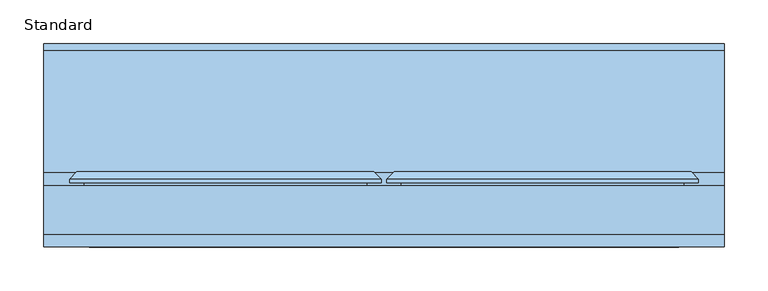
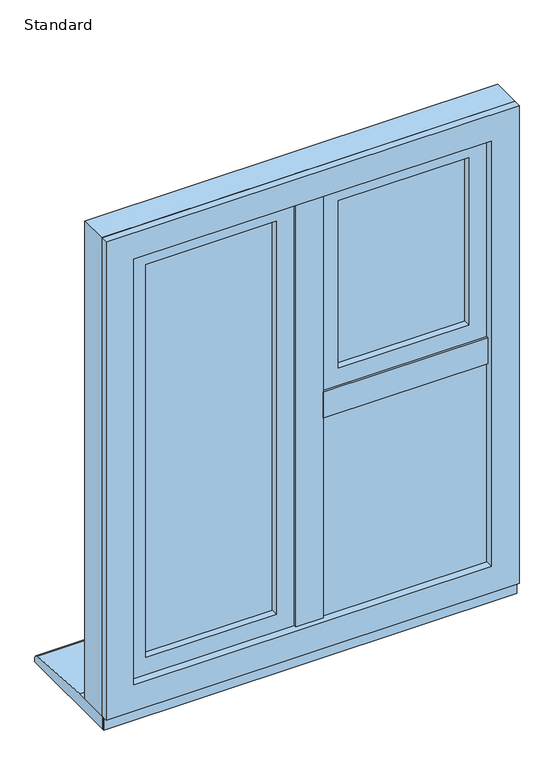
"""IFC4 building model written with IfcOpenShell, lengths in millimetres: window geometry, SMARTS_Alitherm600 : Standard."""

from ifc_helpers import new_model, si_unit, point, frame, frame_2d, origin, place, context, project, spatial, polyline, circle_curve, trimmed, segment, composite_curve, outline, extrude, faceted_brep, source, transform, mapped, element, save


def standard_4289d727(model_context):
    return source(origin(), model_context, "Body", "SolidModel", [
        extrude(outline(polyline([(-9.4, 102.8298432), (9.4, 102.8298432), (9.4, 47.2458572), (-9.4, 47.2458572), (-9.4, 102.8298432)])), frame((0.0, 0.0, 670.8979117), z_axis=(0.0, 0.0, 1.0), x_axis=(1.0, 0.0, 0.0)), (0.0, 0.0, 1.0), 883.2041766),
        extrude(outline(polyline([(-25.9020883, 47.2458572), (25.9020883, 47.2458572), (25.9020883, 43.2798432), (-25.9020883, 43.2798432), (-25.9020883, 47.2458572)])), frame((0.0, 0.0, 687.4), z_axis=(0.0, 0.0, 1.0), x_axis=(1.0, 0.0, 0.0)), (0.0, 0.0, 1.0), 850.2),
        extrude(outline(polyline([(354.1020883, 102.8298432), (354.1020883, 47.2458572), (9.4979117, 47.2458572), (9.4979117, 102.8298432), (354.1020883, 102.8298432)])), frame((0.0, 0.0, 1103.1), z_axis=(0.0, 0.0, 1.0), x_axis=(1.0, 0.0, 0.0)), (0.0, 0.0, 1.0), 18.8),
        extrude(outline(polyline([(337.6, 47.2458572), (337.6, 43.2798432), (26.0, 43.2798432), (26.0, 47.2458572), (337.6, 47.2458572)])), frame((0.0, 0.0, 1086.5979117), z_axis=(0.0, 0.0, 1.0), x_axis=(1.0, 0.0, 0.0)), (0.0, 0.0, 1.0), 51.8041766),
        extrude(outline(polyline([(1516.6, -316.6), (708.4, -316.6), (708.4, -47.0), (1516.6, -47.0), (1516.6, -316.6)]), holes=[polyline([(1506.6, -57.0), (718.4, -57.0), (718.4, -306.6), (1506.6, -306.6), (1506.6, -57.0)])]), frame((0.0, 72.3211351, 0.0), z_axis=(0.0, 1.0, 0.0), x_axis=(0.0, 0.0, 1.0)), (0.0, 0.0, 1.0), 16.0),
        extrude(outline(polyline([(-316.6, 92.3211351), (-47.0, 92.3211351), (-47.0, 88.3211351), (-316.6, 88.3211351), (-316.6, 92.3211351)])), frame((0.0, 0.0, 708.4), z_axis=(0.0, 0.0, 1.0), x_axis=(1.0, 0.0, 0.0)), (0.0, 0.0, 1.0), 808.2),
        extrude(outline(polyline([(-316.6, 72.3211351), (-47.0, 72.3211351), (-47.0, 68.3211351), (-316.6, 68.3211351), (-316.6, 72.3211351)])), frame((0.0, 0.0, 708.4), z_axis=(0.0, 0.0, 1.0), x_axis=(1.0, 0.0, 0.0)), (0.0, 0.0, 1.0), 808.2),
        faceted_brep([(-46.6778853, 118.8818325, 1516.9221147), (-58.859976, 97.7818325, 1504.740024), (-304.740024, 97.7818325, 1504.740024), (-316.9221147, 118.8818325, 1516.9221147), (-41.9939506, 97.7818325, 1521.6060494), (-41.9939506, 118.8818325, 1521.6060494), (-321.6060494, 118.8818325, 1521.6060494), (-321.6060494, 97.7818325, 1521.6060494), (-304.740024, 97.7818325, 720.259976), (-316.9221147, 118.8818325, 708.0778853), (-321.6060494, 118.8818325, 703.3939506), (-321.6060494, 97.7818325, 703.3939506), (-58.859976, 97.7818325, 720.259976), (-46.6778853, 118.8818325, 708.0778853), (-41.9939506, 118.8818325, 703.3939506), (-41.9939506, 97.7818325, 703.3939506)], [[[0, 1, 2, 3]], [[4, 5, 6, 7]], [[3, 2, 8, 9]], [[7, 6, 10, 11]], [[9, 8, 12, 13]], [[11, 10, 14, 15]], [[13, 12, 1, 0]], [[5, 14, 10, 6], [3, 9, 13, 0]], [[15, 14, 5, 4]], [[7, 11, 15, 4], [1, 12, 8, 2]]]),
        extrude(outline(polyline([(681.552908, -343.447092), (681.552908, -20.152908), (1543.447092, -20.152908), (1543.447092, -343.447092), (681.552908, -343.447092)]), holes=[polyline([(1505.1, -305.1), (1505.1, -58.5), (719.9, -58.5), (719.9, -305.1), (1505.1, -305.1)])]), frame((0.0, 50.2798432, 0.0), z_axis=(0.0, 1.0, 0.0), x_axis=(0.0, 0.0, 1.0)), (0.0, 0.0, 1.0), 13.0853156),
        faceted_brep([(-321.6060494, 118.8818325, 1521.6060494), (-321.6060494, 63.3651588, 1521.6060494), (-321.6060494, 63.3651588, 703.3939506), (-321.6060494, 118.8818325, 703.3939506), (-41.9939506, 63.3651588, 703.3939506), (-41.9939506, 118.8818325, 703.3939506), (-41.9939506, 63.3651588, 1521.6060494), (-41.9939506, 118.8818325, 1521.6060494), (-360.3358988, 106.2818325, 1560.3358988), (-360.3358988, 110.3519831, 1560.3358988), (-360.3358988, 110.3519831, 664.6641012), (-360.3358988, 106.2818325, 664.6641012), (-3.2641012, 110.3519831, 664.6641012), (-3.2641012, 106.2818325, 664.6641012), (-3.2641012, 110.3519831, 1560.3358988), (-3.2641012, 106.2818325, 1560.3358988), (-343.7467657, 106.2818325, 1543.7467657), (-19.8532343, 106.2818325, 1543.7467657), (-19.8532343, 106.2818325, 681.2532343), (-343.7467657, 106.2818325, 681.2532343), (-351.8060494, 118.8818325, 1551.8060494), (-11.7939506, 118.8818325, 1551.8060494), (-11.7939506, 118.8818325, 673.1939506), (-351.8060494, 118.8818325, 673.1939506), (-343.7467657, 63.3651588, 1543.7467657), (-343.7467657, 63.3651588, 681.2532343), (-19.8532343, 63.3651588, 681.2532343), (-19.8532343, 63.3651588, 1543.7467657)], [[[0, 1, 2, 3]], [[3, 2, 4, 5]], [[5, 4, 6, 7]], [[7, 6, 1, 0]], [[8, 9, 10, 11]], [[11, 10, 12, 13]], [[13, 12, 14, 15]], [[11, 13, 15, 8], [16, 17, 18, 19]], [[15, 14, 9, 8]], [[20, 21, 22, 23], [3, 5, 7, 0]], [[24, 16, 19, 25]], [[25, 19, 18, 26]], [[26, 18, 17, 27]], [[25, 26, 27, 24], [1, 6, 4, 2]], [[27, 17, 16, 24]], [[9, 20, 23, 10]], [[10, 23, 22, 12]], [[12, 22, 21, 14]], [[14, 21, 20, 9]]]),
        extrude(outline(polyline([(11.0, 77.7798432), (352.6, 77.7798432), (352.6, 73.7798432), (11.0, 73.7798432), (11.0, 77.7798432)])), frame((0.0, 0.0, 672.4), z_axis=(0.0, 0.0, 1.0), x_axis=(1.0, 0.0, 0.0)), (0.0, 0.0, 1.0), 429.1),
        extrude(outline(polyline([(11.0, 57.7798432), (352.6, 57.7798432), (352.6, 53.7798432), (11.0, 53.7798432), (11.0, 57.7798432)])), frame((0.0, 0.0, 672.4), z_axis=(0.0, 0.0, 1.0), x_axis=(1.0, 0.0, 0.0)), (0.0, 0.0, 1.0), 429.1),
        extrude(outline(polyline([(1101.5, 11.0), (672.4, 11.0), (672.4, 352.6), (1101.5, 352.6), (1101.5, 11.0)]), holes=[polyline([(1091.5, 342.6), (682.4, 342.6), (682.4, 21.0), (1091.5, 21.0), (1091.5, 342.6)])]), frame((0.0, 57.7798432, 0.0), z_axis=(0.0, 1.0, 0.0), x_axis=(0.0, 0.0, 1.0)), (0.0, 0.0, 1.0), 16.0),
        faceted_brep([(14.1839347, 102.7798432, 1098.3160653), (26.3660254, 81.6798432, 1086.1339746), (26.3660254, 81.6798432, 687.7660254), (14.1839347, 102.7798432, 675.5839347), (337.2339746, 81.6798432, 687.7660254), (349.4160653, 102.7798432, 675.5839347), (337.2339746, 81.6798432, 1086.1339746), (349.4160653, 102.7798432, 1098.3160653), (354.1, 81.6798432, 1103.0), (354.1, 102.7798432, 1103.0), (9.5, 102.7798432, 1103.0), (9.5, 81.6798432, 1103.0), (9.5, 102.7798432, 670.9), (9.5, 81.6798432, 670.9), (354.1, 102.7798432, 670.9), (354.1, 81.6798432, 670.9)], [[[0, 1, 2, 3]], [[3, 2, 4, 5]], [[5, 4, 6, 7]], [[7, 6, 1, 0]], [[8, 9, 10, 11]], [[11, 10, 12, 13]], [[13, 12, 14, 15]], [[9, 14, 12, 10], [0, 3, 5, 7]], [[15, 14, 9, 8]], [[11, 13, 15, 8], [6, 4, 2, 1]]]),
        extrude(outline(polyline([(1590.0, 390.0), (1590.0, -390.0), (635.0, -390.0), (635.0, 390.0), (1590.0, 390.0)]), holes=[polyline([(670.85, 354.15), (670.85, -354.15), (1554.15, -354.15), (1554.15, 354.15), (670.85, 354.15)])]), frame((0.0, 47.2798427, 0.0), z_axis=(0.0, 1.0, 0.0), x_axis=(0.0, 0.0, 1.0)), (0.0, 0.0, 1.0), 55.5500006),
        extrude(outline(polyline([(1590.0, 390.0), (1590.0, -390.0), (635.0, -390.0), (635.0, 390.0), (1590.0, 390.0)]), holes=[polyline([(687.35, 337.65), (687.35, -337.65), (1537.65, -337.65), (1537.65, 337.65), (687.35, 337.65)])]), frame((0.0, 32.8298432, 0.0), z_axis=(0.0, 1.0, 0.0), x_axis=(0.0, 0.0, 1.0)), (0.0, 0.0, 1.0), 14.4499994),
        extrude(outline(polyline([(1516.6, 47.0), (1159.5, 47.0), (1159.5, 316.6), (1516.6, 316.6), (1516.6, 47.0)]), holes=[polyline([(1506.6, 306.6), (1169.5, 306.6), (1169.5, 57.0), (1506.6, 57.0), (1506.6, 306.6)])]), frame((0.0, 72.3211351, 0.0), z_axis=(0.0, 1.0, 0.0), x_axis=(0.0, 0.0, 1.0)), (0.0, 0.0, 1.0), 16.0),
        extrude(outline(polyline([(47.0, 92.3211351), (316.6, 92.3211351), (316.6, 88.3211351), (47.0, 88.3211351), (47.0, 92.3211351)])), frame((0.0, 0.0, 1159.5), z_axis=(0.0, 0.0, 1.0), x_axis=(1.0, 0.0, 0.0)), (0.0, 0.0, 1.0), 357.1),
        extrude(outline(polyline([(47.0, 72.3211351), (316.6, 72.3211351), (316.6, 68.3211351), (47.0, 68.3211351), (47.0, 72.3211351)])), frame((0.0, 0.0, 1159.5), z_axis=(0.0, 0.0, 1.0), x_axis=(1.0, 0.0, 0.0)), (0.0, 0.0, 1.0), 357.1),
        faceted_brep([(316.9221147, 118.8818325, 1516.9221147), (304.740024, 97.7818325, 1504.740024), (58.859976, 97.7818325, 1504.740024), (46.6778853, 118.8818325, 1516.9221147), (321.6060494, 97.7818325, 1521.6060494), (321.6060494, 118.8818325, 1521.6060494), (41.9939506, 118.8818325, 1521.6060494), (41.9939506, 97.7818325, 1521.6060494), (58.859976, 97.7818325, 1171.359976), (46.6778853, 118.8818325, 1159.1778853), (41.9939506, 118.8818325, 1154.4939506), (41.9939506, 97.7818325, 1154.4939506), (304.740024, 97.7818325, 1171.359976), (316.9221147, 118.8818325, 1159.1778853), (321.6060494, 118.8818325, 1154.4939506), (321.6060494, 97.7818325, 1154.4939506)], [[[0, 1, 2, 3]], [[4, 5, 6, 7]], [[3, 2, 8, 9]], [[7, 6, 10, 11]], [[9, 8, 12, 13]], [[11, 10, 14, 15]], [[13, 12, 1, 0]], [[5, 14, 10, 6], [3, 9, 13, 0]], [[15, 14, 5, 4]], [[7, 11, 15, 4], [1, 12, 8, 2]]]),
        extrude(outline(polyline([(1132.652908, 20.152908), (1132.652908, 343.447092), (1543.447092, 343.447092), (1543.447092, 20.152908), (1132.652908, 20.152908)]), holes=[polyline([(1505.1, 58.5), (1505.1, 305.1), (1171.0, 305.1), (1171.0, 58.5), (1505.1, 58.5)])]), frame((0.0, 50.2798432, 0.0), z_axis=(0.0, 1.0, 0.0), x_axis=(0.0, 0.0, 1.0)), (0.0, 0.0, 1.0), 13.0853156),
        faceted_brep([(41.9939506, 118.8818325, 1521.6060494), (41.9939506, 63.3651588, 1521.6060494), (41.9939506, 63.3651588, 1154.4939506), (41.9939506, 118.8818325, 1154.4939506), (321.6060494, 63.3651588, 1154.4939506), (321.6060494, 118.8818325, 1154.4939506), (321.6060494, 63.3651588, 1521.6060494), (321.6060494, 118.8818325, 1521.6060494), (3.2641012, 106.2818325, 1560.3358988), (3.2641012, 110.3519831, 1560.3358988), (3.2641012, 110.3519831, 1115.7641012), (3.2641012, 106.2818325, 1115.7641012), (360.3358988, 110.3519831, 1115.7641012), (360.3358988, 106.2818325, 1115.7641012), (360.3358988, 110.3519831, 1560.3358988), (360.3358988, 106.2818325, 1560.3358988), (19.8532343, 106.2818325, 1543.7467657), (343.7467657, 106.2818325, 1543.7467657), (343.7467657, 106.2818325, 1132.3532343), (19.8532343, 106.2818325, 1132.3532343), (11.7939506, 118.8818325, 1551.8060494), (351.8060494, 118.8818325, 1551.8060494), (351.8060494, 118.8818325, 1124.2939506), (11.7939506, 118.8818325, 1124.2939506), (19.8532343, 63.3651588, 1543.7467657), (19.8532343, 63.3651588, 1132.3532343), (343.7467657, 63.3651588, 1132.3532343), (343.7467657, 63.3651588, 1543.7467657)], [[[0, 1, 2, 3]], [[3, 2, 4, 5]], [[5, 4, 6, 7]], [[7, 6, 1, 0]], [[8, 9, 10, 11]], [[11, 10, 12, 13]], [[13, 12, 14, 15]], [[11, 13, 15, 8], [16, 17, 18, 19]], [[15, 14, 9, 8]], [[20, 21, 22, 23], [3, 5, 7, 0]], [[24, 16, 19, 25]], [[25, 19, 18, 26]], [[26, 18, 17, 27]], [[25, 26, 27, 24], [1, 6, 4, 2]], [[27, 17, 16, 24]], [[9, 20, 23, 10]], [[10, 23, 22, 12]], [[12, 22, 21, 14]], [[14, 21, 20, 9]]]),
        extrude(outline(polyline([(390.0, 43.2798432), (390.0, 40.7798432), (-390.0, 40.7798432), (-390.0, 43.2798432), (390.0, 43.2798432)])), frame((0.0, 0.0, 610.0), z_axis=(0.0, 0.0, 1.0), x_axis=(1.0, 0.0, 0.0)), (0.0, 0.0, 1.0), 31.0),
        extrude(outline(composite_curve([segment(polyline([(265.7798432, 610.0), (43.2798432, 610.0), (43.2798432, 635.0), (118.7798432, 635.0), (258.4770891, 625.9276664)]), True, "CONTINUOUS"), segment(trimmed(circle_curve(frame_2d((257.7798432, 617.9581088)), 8.0), [point((258.4770891, 625.9276664))], [point((265.7798432, 617.9581088))], False, "CARTESIAN"), True, "CONTINUOUS"), segment(polyline([(265.7798432, 617.9581088), (265.7798432, 610.0)]), True, "CONTINUOUS")], self_intersect=False)), frame((-390.0, 0.0, 0.0), z_axis=(1.0, 0.0, 0.0), x_axis=(0.0, 1.0, 0.0)), (0.0, 0.0, 1.0), 780.0),
    ])


if __name__ == "__main__":
    model = new_model("IFC4")
    model_context = context("Model", 3, world=origin())
    ifc_project = project(units=[si_unit("LENGTHUNIT", "METRE", prefix="MILLI")], contexts=[model_context])
    site = spatial("IfcSite", under=ifc_project)
    building = spatial("IfcBuilding", under=site)
    placement = place(None, origin())
    standard_shape = standard_4289d727(model_context)
    element("IfcWindow", 1, ObjectType="SMARTS_Alitherm600 : Standard", at=placement, inside=building, context=model_context, shape_type="MappedRepresentation", body=[
        mapped(standard_shape, transform((0.0, 0.0, 0.0), x_axis=(1.0, 0.0, 0.0), y_axis=(0.0, 1.0, 0.0), z_axis=(0.0, 0.0, 1.0))),
    ])
    save(model, "model.ifc")
